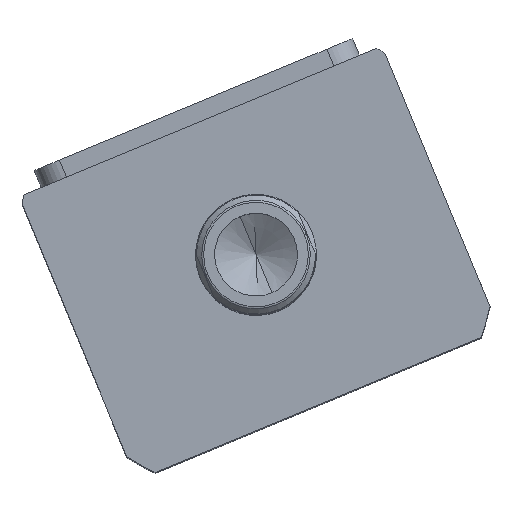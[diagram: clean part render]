
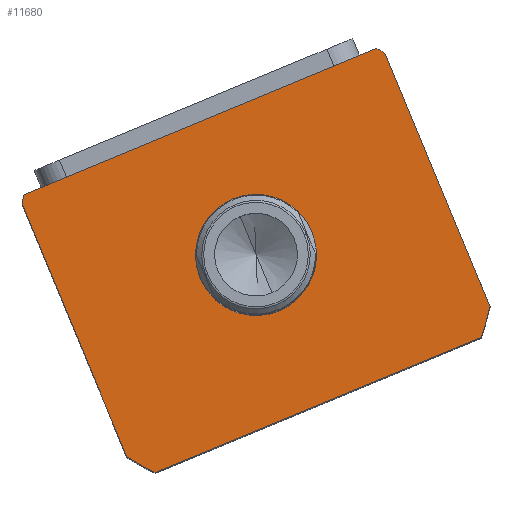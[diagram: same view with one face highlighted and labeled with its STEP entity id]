
A CAD part, top view. The second image highlights one B-rep face of the part: STEP entity #11680.
In plain terms, the highlighted planar face has unit normal (0, 0, 1) as drawn and (0, 0, -1) by its records, which use the part's own axes.
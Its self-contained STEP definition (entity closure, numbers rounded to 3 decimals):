
#16 = CIRCLE ( 'NONE', #13930, 69.5 ) ;
#55 = AXIS2_PLACEMENT_3D ( 'NONE', #170, #10261, #1604 ) ;
#59 = LINE ( 'NONE', #12024, #3453 ) ;
#170 = CARTESIAN_POINT ( 'NONE',  ( 0., -59.497, 0. ) ) ;
#518 = VECTOR ( 'NONE', #13485, 1000. ) ;
#532 = CARTESIAN_POINT ( 'NONE',  ( 57., -99.262, 0. ) ) ;
#635 = EDGE_CURVE ( 'NONE', #16729, #10698, #9967, .T. ) ;
#711 = CARTESIAN_POINT ( 'NONE',  ( 0., -59.497, 0. ) ) ;
#720 = DIRECTION ( 'NONE',  ( 0., 0., 1. ) ) ;
#1176 = CIRCLE ( 'NONE', #1855, 69.5 ) ;
#1604 = DIRECTION ( 'NONE',  ( 1., 0., 0. ) ) ;
#1626 = VERTEX_POINT ( 'NONE', #11384 ) ;
#1719 = AXIS2_PLACEMENT_3D ( 'NONE', #3998, #14076, #5450 ) ;
#1807 = DIRECTION ( 'NONE',  ( 0., 0., 1. ) ) ;
#1855 = AXIS2_PLACEMENT_3D ( 'NONE', #4502, #14595, #5959 ) ;
#1968 = ORIENTED_EDGE ( 'NONE', *, *, #2986, .F. ) ;
#2096 = LINE ( 'NONE', #7656, #16997 ) ;
#2122 = PLANE ( 'NONE',  #12014 ) ;
#2170 = DIRECTION ( 'NONE',  ( 1., 0., 0. ) ) ;
#2254 = CIRCLE ( 'NONE', #1719, 69.5 ) ;
#2934 = VECTOR ( 'NONE', #3996, 1000. ) ;
#2972 = EDGE_LOOP ( 'NONE', ( #7121, #10266 ) ) ;
#2986 = EDGE_CURVE ( 'NONE', #9617, #9569, #16, .T. ) ;
#3402 = LINE ( 'NONE', #9661, #2934 ) ;
#3453 = VECTOR ( 'NONE', #13534, 1000. ) ;
#3729 = ORIENTED_EDGE ( 'NONE', *, *, #11556, .F. ) ;
#3943 = ORIENTED_EDGE ( 'NONE', *, *, #4296, .F. ) ;
#3996 = DIRECTION ( 'NONE',  ( -1., 0., 0. ) ) ;
#3998 = CARTESIAN_POINT ( 'NONE',  ( 0., -59.497, 0. ) ) ;
#4233 = CARTESIAN_POINT ( 'NONE',  ( 0., -59.497, 0. ) ) ;
#4296 = EDGE_CURVE ( 'NONE', #10698, #1626, #3402, .T. ) ;
#4398 = AXIS2_PLACEMENT_3D ( 'NONE', #9928, #1807, #15937 ) ;
#4502 = CARTESIAN_POINT ( 'NONE',  ( 0., -59.497, 0. ) ) ;
#4852 = CARTESIAN_POINT ( 'NONE',  ( -57., -106.497, 0. ) ) ;
#5450 = DIRECTION ( 'NONE',  ( 1., 0., 0. ) ) ;
#5504 = ORIENTED_EDGE ( 'NONE', *, *, #11412, .F. ) ;
#5682 = DIRECTION ( 'NONE',  ( 1., 0., 0. ) ) ;
#5703 = ORIENTED_EDGE ( 'NONE', *, *, #635, .F. ) ;
#5959 = DIRECTION ( 'NONE',  ( 1., 0., 0. ) ) ;
#6380 = FACE_OUTER_BOUND ( 'NONE', #10196, .T. ) ;
#6436 = CARTESIAN_POINT ( 'NONE',  ( 55.374, -17.497, 0. ) ) ;
#6518 = CARTESIAN_POINT ( 'NONE',  ( 17.5, -59.497, 0. ) ) ;
#7045 = EDGE_CURVE ( 'NONE', #10151, #15430, #2254, .T. ) ;
#7121 = ORIENTED_EDGE ( 'NONE', *, *, #11988, .T. ) ;
#7469 = VERTEX_POINT ( 'NONE', #14601 ) ;
#7656 = CARTESIAN_POINT ( 'NONE',  ( 57., -17.497, 0. ) ) ;
#8171 = LINE ( 'NONE', #4852, #518 ) ;
#9102 = DIRECTION ( 'NONE',  ( 0., 1., 0. ) ) ;
#9569 = VERTEX_POINT ( 'NONE', #14620 ) ;
#9617 = VERTEX_POINT ( 'NONE', #13164 ) ;
#9661 = CARTESIAN_POINT ( 'NONE',  ( -57., -17.497, 0. ) ) ;
#9928 = CARTESIAN_POINT ( 'NONE',  ( 0., -59.497, 0. ) ) ;
#9967 = CIRCLE ( 'NONE', #4398, 69.5 ) ;
#10151 = VERTEX_POINT ( 'NONE', #11419 ) ;
#10196 = EDGE_LOOP ( 'NONE', ( #5703, #13898, #12319, #5504, #1968, #3729, #14018, #3943 ) ) ;
#10261 = DIRECTION ( 'NONE',  ( 0., 0., 1. ) ) ;
#10266 = ORIENTED_EDGE ( 'NONE', *, *, #17740, .T. ) ;
#10374 = EDGE_CURVE ( 'NONE', #1626, #7469, #1176, .T. ) ;
#10588 = CARTESIAN_POINT ( 'NONE',  ( 57., -19.732, 0. ) ) ;
#10698 = VERTEX_POINT ( 'NONE', #6436 ) ;
#10799 = DIRECTION ( 'NONE',  ( 0., 0., 1. ) ) ;
#10808 = DIRECTION ( 'NONE',  ( 1., 0., 0. ) ) ;
#10974 = CARTESIAN_POINT ( 'NONE',  ( -17.5, -59.497, 0. ) ) ;
#11384 = CARTESIAN_POINT ( 'NONE',  ( -55.374, -17.497, 0. ) ) ;
#11412 = EDGE_CURVE ( 'NONE', #9569, #10151, #8171, .T. ) ;
#11419 = CARTESIAN_POINT ( 'NONE',  ( 51.198, -106.497, 0. ) ) ;
#11556 = EDGE_CURVE ( 'NONE', #7469, #9617, #59, .T. ) ;
#11680 = ADVANCED_FACE ( 'NONE', ( #14021, #6380 ), #2122, .F. ) ;
#11988 = EDGE_CURVE ( 'NONE', #13608, #17254, #16982, .T. ) ;
#12014 = AXIS2_PLACEMENT_3D ( 'NONE', #16561, #720, #10808 ) ;
#12024 = CARTESIAN_POINT ( 'NONE',  ( -57., -17.497, 0. ) ) ;
#12319 = ORIENTED_EDGE ( 'NONE', *, *, #7045, .F. ) ;
#13164 = CARTESIAN_POINT ( 'NONE',  ( -57., -99.262, 0. ) ) ;
#13485 = DIRECTION ( 'NONE',  ( 1., 0., 0. ) ) ;
#13534 = DIRECTION ( 'NONE',  ( 0., -1., 0. ) ) ;
#13608 = VERTEX_POINT ( 'NONE', #6518 ) ;
#13898 = ORIENTED_EDGE ( 'NONE', *, *, #17891, .F. ) ;
#13930 = AXIS2_PLACEMENT_3D ( 'NONE', #711, #10799, #2170 ) ;
#14018 = ORIENTED_EDGE ( 'NONE', *, *, #10374, .F. ) ;
#14021 = FACE_BOUND ( 'NONE', #2972, .T. ) ;
#14076 = DIRECTION ( 'NONE',  ( 0., 0., 1. ) ) ;
#14317 = DIRECTION ( 'NONE',  ( 0., 0., 1. ) ) ;
#14517 = CIRCLE ( 'NONE', #15586, 17.5 ) ;
#14595 = DIRECTION ( 'NONE',  ( 0., 0., 1. ) ) ;
#14601 = CARTESIAN_POINT ( 'NONE',  ( -57., -19.732, 0. ) ) ;
#14620 = CARTESIAN_POINT ( 'NONE',  ( -51.198, -106.497, 0. ) ) ;
#15430 = VERTEX_POINT ( 'NONE', #532 ) ;
#15586 = AXIS2_PLACEMENT_3D ( 'NONE', #4233, #14317, #5682 ) ;
#15937 = DIRECTION ( 'NONE',  ( 1., 0., 0. ) ) ;
#16561 = CARTESIAN_POINT ( 'NONE',  ( 0., 0., 0. ) ) ;
#16729 = VERTEX_POINT ( 'NONE', #10588 ) ;
#16982 = CIRCLE ( 'NONE', #55, 17.5 ) ;
#16997 = VECTOR ( 'NONE', #9102, 1000. ) ;
#17254 = VERTEX_POINT ( 'NONE', #10974 ) ;
#17740 = EDGE_CURVE ( 'NONE', #17254, #13608, #14517, .T. ) ;
#17891 = EDGE_CURVE ( 'NONE', #15430, #16729, #2096, .T. ) ;
